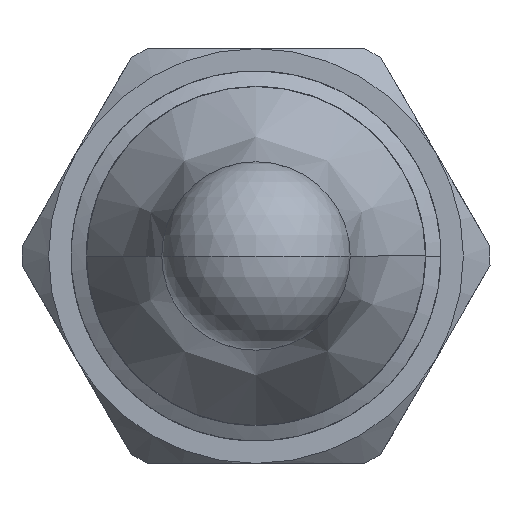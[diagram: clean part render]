
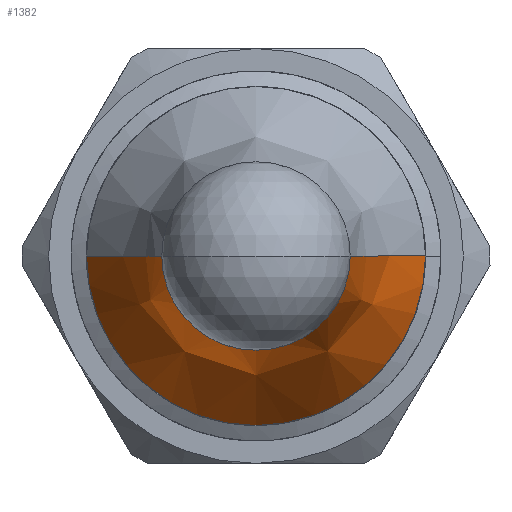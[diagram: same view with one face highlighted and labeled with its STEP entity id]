
A CAD part, front view. The second image highlights one B-rep face of the part: STEP entity #1382.
In plain terms, the highlighted free-form (B-spline) face has degree [2, 3] with [3, 4] control points.
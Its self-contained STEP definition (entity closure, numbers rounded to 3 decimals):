
#33 = EDGE_CURVE ( 'NONE', #3790, #2350, #37, .T. ) ;
#37 = CIRCLE ( 'NONE', #4263, 8.99 ) ;
#110 = CARTESIAN_POINT ( 'NONE',  ( 5.664, -43.124, 0. ) ) ;
#140 = FACE_OUTER_BOUND ( 'NONE', #3873, .T. ) ;
#581 = AXIS2_PLACEMENT_3D ( 'NONE', #3347, #1759, #4553 ) ;
#630 = CARTESIAN_POINT ( 'NONE',  ( 0., -38.8, 0. ) ) ;
#887 = CARTESIAN_POINT ( 'NONE',  ( -8.99, -38.8, 0. ) ) ;
#968 = B_SPLINE_CURVE_WITH_KNOTS ( 'NONE', 2,
 ( #3983, #1941, #2448 ),
 .UNSPECIFIED., .F., .F.,
 ( 3, 3 ),
 ( 0., 0.667 ),
 .UNSPECIFIED. ) ;
#969 = EDGE_CURVE ( 'NONE', #3790, #2555, #968, .T. ) ;
#1006 = ORIENTED_EDGE ( 'NONE', *, *, #1689, .F. ) ;
#1091 =( BOUNDED_SURFACE ( )  B_SPLINE_SURFACE ( 2, 3, ( 
 ( #2034, #3212, #3997, #887 ),
 ( #110, #3642, #3287, #1668 ),
 ( #1214, #2059, #3667, #2487 ) ),
 .UNSPECIFIED., .F., .F., .F. ) 
 B_SPLINE_SURFACE_WITH_KNOTS ( ( 3, 3 ),
 ( 4, 4 ),
 ( 0., 0.667 ),
 ( 0., 1. ),
 .UNSPECIFIED. ) 
 GEOMETRIC_REPRESENTATION_ITEM ( )  RATIONAL_B_SPLINE_SURFACE ( (
 ( 1., 0.333, 0.333, 1.),
 ( 1., 0.333, 0.333, 1.),
 ( 1., 0.333, 0.333, 1.) ) ) 
 REPRESENTATION_ITEM ( '' )  SURFACE ( )  );
#1093 = CARTESIAN_POINT ( 'NONE',  ( -8.99, -38.8, 0. ) ) ;
#1214 = CARTESIAN_POINT ( 'NONE',  ( 5., -48., 0. ) ) ;
#1279 = CARTESIAN_POINT ( 'NONE',  ( 8.99, -38.8, 0. ) ) ;
#1382 = ADVANCED_FACE ( 'NONE', ( #140 ), #1091, .T. ) ;
#1449 = VERTEX_POINT ( 'NONE', #2086 ) ;
#1668 = CARTESIAN_POINT ( 'NONE',  ( -5.664, -43.124, 0. ) ) ;
#1689 = EDGE_CURVE ( 'NONE', #2350, #1449, #2433, .T. ) ;
#1730 = ORIENTED_EDGE ( 'NONE', *, *, #969, .T. ) ;
#1759 = DIRECTION ( 'NONE',  ( 0., 1., 0. ) ) ;
#1941 = CARTESIAN_POINT ( 'NONE',  ( 5.664, -43.124, 0. ) ) ;
#2034 = CARTESIAN_POINT ( 'NONE',  ( 8.99, -38.8, 0. ) ) ;
#2059 = CARTESIAN_POINT ( 'NONE',  ( 5., -48., -10. ) ) ;
#2086 = CARTESIAN_POINT ( 'NONE',  ( -5., -48., 0. ) ) ;
#2178 = DIRECTION ( 'NONE',  ( 0., 1., 0. ) ) ;
#2350 = VERTEX_POINT ( 'NONE', #2685 ) ;
#2398 = ORIENTED_EDGE ( 'NONE', *, *, #33, .F. ) ;
#2433 = B_SPLINE_CURVE_WITH_KNOTS ( 'NONE', 2,
 ( #1093, #3409, #4972 ),
 .UNSPECIFIED., .F., .F.,
 ( 3, 3 ),
 ( 0., 0.667 ),
 .UNSPECIFIED. ) ;
#2448 = CARTESIAN_POINT ( 'NONE',  ( 5., -48., 0. ) ) ;
#2487 = CARTESIAN_POINT ( 'NONE',  ( -5., -48., 0. ) ) ;
#2555 = VERTEX_POINT ( 'NONE', #2984 ) ;
#2685 = CARTESIAN_POINT ( 'NONE',  ( -8.99, -38.8, 0. ) ) ;
#2984 = CARTESIAN_POINT ( 'NONE',  ( 5., -48., 0. ) ) ;
#3212 = CARTESIAN_POINT ( 'NONE',  ( 8.99, -38.8, -17.98 ) ) ;
#3287 = CARTESIAN_POINT ( 'NONE',  ( -5.664, -43.124, -11.328 ) ) ;
#3347 = CARTESIAN_POINT ( 'NONE',  ( 0., -48., 0. ) ) ;
#3409 = CARTESIAN_POINT ( 'NONE',  ( -5.664, -43.124, 0. ) ) ;
#3642 = CARTESIAN_POINT ( 'NONE',  ( 5.664, -43.124, -11.328 ) ) ;
#3666 = CIRCLE ( 'NONE', #581, 5. ) ;
#3667 = CARTESIAN_POINT ( 'NONE',  ( -5., -48., -10. ) ) ;
#3790 = VERTEX_POINT ( 'NONE', #1279 ) ;
#3861 = ORIENTED_EDGE ( 'NONE', *, *, #4194, .T. ) ;
#3873 = EDGE_LOOP ( 'NONE', ( #2398, #1730, #3861, #1006 ) ) ;
#3983 = CARTESIAN_POINT ( 'NONE',  ( 8.99, -38.8, 0. ) ) ;
#3997 = CARTESIAN_POINT ( 'NONE',  ( -8.99, -38.8, -17.98 ) ) ;
#4194 = EDGE_CURVE ( 'NONE', #2555, #1449, #3666, .T. ) ;
#4263 = AXIS2_PLACEMENT_3D ( 'NONE', #630, #2178, #4430 ) ;
#4430 = DIRECTION ( 'NONE',  ( -1., 0., 0. ) ) ;
#4553 = DIRECTION ( 'NONE',  ( -1., 0., 0. ) ) ;
#4972 = CARTESIAN_POINT ( 'NONE',  ( -5., -48., 0. ) ) ;
